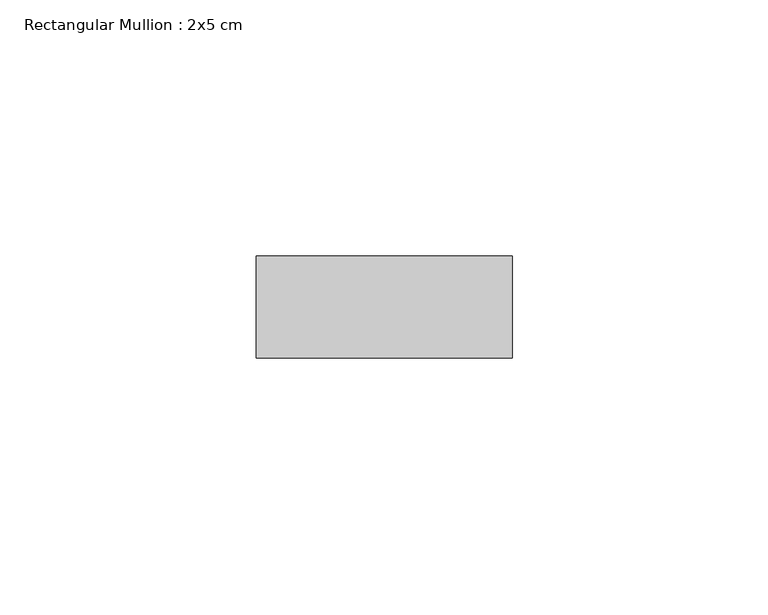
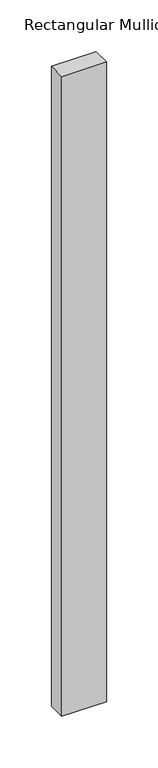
"""IFC4 building model written with IfcOpenShell, lengths in millimetres: member geometry, Rectangular Mullion : 2x5 cm."""

import ifcopenshell
import ifcopenshell.guid

model = None  # the IFC model being written
_history = None  # IfcOwnerHistory: only IFC2X3 demands one
_inside = {}  # id of a spatial element -> (the spatial element, [elements in it])
_under = {}  # id of a project, library or spatial element -> (it, [spatial elements below it])
_declared = {}  # id of a project -> (the project, [libraries it declares])
_typed = {}  # id of a type object -> (the type object, [elements of that type])
_made_of = {}  # id of a material, layer set ... -> (it, [elements and type objects made of it])


def new_model(schema):
    """Start an empty IFC model of exactly this schema.

    Asked for "IFC4X3", IfcOpenShell would pick the latest addendum, in which some entities
    have other attributes; the version numbers below select the first issue.
    IFC2X3 requires an IfcOwnerHistory on every rooted entity: one is made here for all.
    """
    global model, _history
    if schema == "IFC4X3":
        model = ifcopenshell.file(schema_version=(4, 3, 0, 0))
    else:
        model = ifcopenshell.file(schema=schema)
    _inside.clear()
    _under.clear()
    _declared.clear()
    _typed.clear()
    _made_of.clear()
    _history = None
    if model.schema == "IFC2X3":
        org = make("IfcOrganization", Name="unknown")
        user = make(
            "IfcPersonAndOrganization",
            ThePerson=make("IfcPerson", FamilyName="unknown"),
            TheOrganization=org,
        )
        app = make(
            "IfcApplication",
            ApplicationDeveloper=org,
            Version="unknown",
            ApplicationFullName="unknown",
            ApplicationIdentifier="unknown",
        )
        _history = make(
            "IfcOwnerHistory",
            OwningUser=user,
            OwningApplication=app,
            ChangeAction="ADDED",
            CreationDate=0,
        )
    return model


def make(cls, **values):
    """One entity of the class cls with the attributes given. An attribute that is None is left unset."""
    return model.create_entity(
        cls, **{name: value for name, value in values.items() if value is not None}
    )


def rooted(cls, **values):
    """An entity with a GlobalId (a new one), such as an element, a storey or a relation."""
    return make(cls, GlobalId=ifcopenshell.guid.new(), OwnerHistory=_history, **values)


def si_unit(unit_type, name, prefix=None):
    """IfcSIUnit, for example si_unit("LENGTHUNIT", "METRE", prefix="MILLI")."""
    return make("IfcSIUnit", UnitType=unit_type, Prefix=prefix, Name=name)


def assignment(units):
    """IfcUnitAssignment: the units of a project."""
    return None if units is None else make("IfcUnitAssignment", Units=units)


def point(xyz):
    """IfcCartesianPoint."""
    return None if xyz is None else make("IfcCartesianPoint", Coordinates=xyz)


def direction(xyz):
    """IfcDirection."""
    return None if xyz is None else make("IfcDirection", DirectionRatios=xyz)


def frame(location, z_axis=None, x_axis=None):
    """IfcAxis2Placement3D, a coordinate frame: its origin and axes. An axis left out is left unset."""
    return make(
        "IfcAxis2Placement3D",
        Location=point(location),
        Axis=direction(z_axis),
        RefDirection=direction(x_axis),
    )


def origin():
    """The frame at (0, 0, 0) with its axes left unset."""
    return frame((0.0, 0.0, 0.0))


def place(relative_to, where):
    """IfcLocalPlacement: puts the frame where relative to a parent placement (None: the world)."""
    return make(
        "IfcLocalPlacement", PlacementRelTo=relative_to, RelativePlacement=where
    )


def context(
    kind, dimensions, precision=None, world=None, true_north=None, identifier=None
):
    """IfcGeometricRepresentationContext, for example the 3D "Model" context."""
    return make(
        "IfcGeometricRepresentationContext",
        ContextIdentifier=identifier,
        ContextType=kind,
        CoordinateSpaceDimension=dimensions,
        Precision=precision,
        WorldCoordinateSystem=world,
        TrueNorth=true_north,
    )


def project(units=None, contexts=None):
    """IfcProject with its units and contexts."""
    return rooted(
        "IfcProject",
        Name="project",
        RepresentationContexts=contexts,
        UnitsInContext=assignment(units),
    )


def spatial(cls, under=None, at=None, **own):
    """A site, building, storey or space (cls), placed at a placement, below another one or the project."""
    s = rooted(cls, ObjectPlacement=at, **own)
    if under is not None:
        _under.setdefault(under.id(), (under, []))[1].append(s)
    return s


def polyline(points):
    """IfcPolyline through the points."""
    return make("IfcPolyline", Points=[point(p) for p in points])


def outline(outer, holes=None, kind="AREA"):
    """IfcArbitraryClosedProfileDef: a profile drawn as a closed curve; with holes, ...WithVoids."""
    if holes is None:
        return make("IfcArbitraryClosedProfileDef", ProfileType=kind, OuterCurve=outer)
    return make(
        "IfcArbitraryProfileDefWithVoids",
        ProfileType=kind,
        OuterCurve=outer,
        InnerCurves=holes,
    )


def extrude(swept, where, along, depth):
    """IfcExtrudedAreaSolid: the profile swept, set in the frame where, extruded along a direction by depth."""
    return make(
        "IfcExtrudedAreaSolid",
        SweptArea=swept,
        Position=where,
        ExtrudedDirection=direction(along),
        Depth=depth,
    )


def shape(context_of_items, identifier, shape_type, items):
    """IfcShapeRepresentation: the items that make up one representation, for example the "Body"."""
    return make(
        "IfcShapeRepresentation",
        ContextOfItems=context_of_items,
        RepresentationIdentifier=identifier,
        RepresentationType=shape_type,
        Items=items,
    )


def source(mapping_origin, context_of_items, identifier, shape_type, items):
    """IfcRepresentationMap: a shape defined once, which mapped items show again and again."""
    return make(
        "IfcRepresentationMap",
        MappingOrigin=mapping_origin,
        MappedRepresentation=shape(context_of_items, identifier, shape_type, items),
    )


def transform(
    local_origin,
    x_axis=None,
    y_axis=None,
    z_axis=None,
    scale=None,
    scale2=None,
    scale3=None,
    uniform=True,
):
    """IfcCartesianTransformationOperator3D, or its non-uniform kind. x_axis, y_axis, z_axis: its Axis1, 2, 3."""
    if uniform:
        return make(
            "IfcCartesianTransformationOperator3D",
            Axis1=direction(x_axis),
            Axis2=direction(y_axis),
            LocalOrigin=point(local_origin),
            Scale=scale,
            Axis3=direction(z_axis),
        )
    return make(
        "IfcCartesianTransformationOperator3DnonUniform",
        Axis1=direction(x_axis),
        Axis2=direction(y_axis),
        LocalOrigin=point(local_origin),
        Scale=scale,
        Axis3=direction(z_axis),
        Scale2=scale2,
        Scale3=scale3,
    )


def mapped(mapping_source, mapping_target):
    """IfcMappedItem: shows the shape of a source again, moved by a transform."""
    return make(
        "IfcMappedItem", MappingSource=mapping_source, MappingTarget=mapping_target
    )


def made_of(thing, what):
    """Note that an element or type object is made of a material, layer set ...; save() writes the relation."""
    if what is not None:
        _made_of.setdefault(what.id(), (what, []))[1].append(thing)
    return thing


def element(
    cls,
    number,
    at=None,
    inside=None,
    cuts=None,
    type_object=None,
    material=None,
    context=None,
    identifier="Body",
    shape_type=None,
    held_by="IfcProductDefinitionShape",
    body=None,
    shapes=None,
    **own,
):
    """One element of the class cls, such as IfcWall. Its Tag is "e" and its number.

    at: its placement. inside: the storey or other place that contains it. cuts: it is an
    opening in that element (IfcRelVoidsElement). A single representation is given by context,
    identifier, shape_type and body (its items); several are given by shapes. held_by: the class
    of the entity that holds the representations. save() writes the other relations.
    """
    e = rooted(cls, Tag="e%d" % number, ObjectPlacement=at, **own)
    if body is not None:
        shapes = [shape(context, identifier, shape_type, body)]
    if shapes is not None:
        e.Representation = make(held_by, Representations=shapes)
    if inside is not None:
        _inside.setdefault(inside.id(), (inside, []))[1].append(e)
    if cuts is not None:
        rooted(
            "IfcRelVoidsElement", RelatingBuildingElement=cuts, RelatedOpeningElement=e
        )
    if type_object is not None:
        _typed.setdefault(type_object.id(), (type_object, []))[1].append(e)
    return made_of(e, material)


def aggregate(whole, parts):
    """IfcRelAggregates: a whole, such as a stair, and the parts it consists of."""
    return rooted("IfcRelAggregates", RelatingObject=whole, RelatedObjects=parts)


def save(model, path):
    """Write the relations noted so far, then the file.

    IfcRelAggregates (storeys below a building ...), IfcRelContainedInSpatialStructure (elements
    in a storey), IfcRelDefinesByType, IfcRelAssociatesMaterial and IfcRelDeclares: one each for
    every whole, place, type object, material and project.
    """
    for whole, parts in _under.values():
        aggregate(whole, parts)
    for where, things in _inside.values():
        rooted(
            "IfcRelContainedInSpatialStructure",
            RelatedElements=things,
            RelatingStructure=where,
        )
    for kind, things in _typed.values():
        rooted("IfcRelDefinesByType", RelatedObjects=things, RelatingType=kind)
    for what, things in _made_of.values():
        rooted("IfcRelAssociatesMaterial", RelatedObjects=things, RelatingMaterial=what)
    for by, libraries in _declared.values():
        rooted("IfcRelDeclares", RelatingContext=by, RelatedDefinitions=libraries)
    model.write(path)


def rectangular_mullion_2x5_cm_f513848b(model_context):
    return source(origin(), model_context, "Body", "SweptSolid", [
        extrude(outline(polyline([(50.0, 20.0), (50.0, 0.0), (0.0, 0.0), (0.0, 20.0), (50.0, 20.0)])), frame((0.0, 0.0, -756.1438272), z_axis=(0.0, 0.0, 1.0), x_axis=(1.0, 0.0, 0.0)), (0.0, 0.0, 1.0), 756.1438272),
    ])


if __name__ == "__main__":
    model = new_model("IFC4")
    model_context = context("Model", 3, world=origin())
    ifc_project = project(units=[si_unit("LENGTHUNIT", "METRE", prefix="MILLI")], contexts=[model_context])
    site = spatial("IfcSite", under=ifc_project)
    building = spatial("IfcBuilding", under=site)
    placement = place(None, origin())
    rectangular_mullion_2x5_cm_shape = rectangular_mullion_2x5_cm_f513848b(model_context)
    element("IfcMember", 1, ObjectType="Rectangular Mullion : 2x5 cm", at=placement, inside=building, context=model_context, shape_type="MappedRepresentation", body=[
        mapped(rectangular_mullion_2x5_cm_shape, transform((0.0, 0.0, 0.0), x_axis=(1.0, 0.0, 0.0), y_axis=(0.0, 1.0, 0.0), z_axis=(0.0, 0.0, 1.0))),
    ])
    save(model, "model.ifc")
